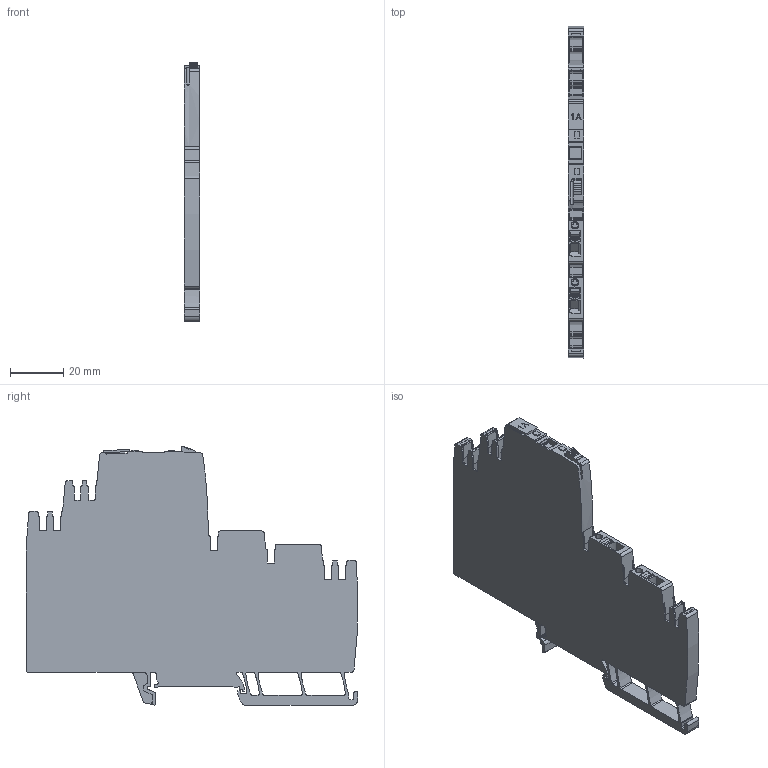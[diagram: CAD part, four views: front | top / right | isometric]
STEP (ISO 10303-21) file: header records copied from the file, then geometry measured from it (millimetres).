
FILE_DESCRIPTION(('CATIA V5R24 STEP','CAx-IF Rec.Pracs.--- Model Styling and Organization---1.2---2011-12-15'),'2;1');
FILE_NAME('\\SRVDE107\Germany\WMC\1_WMC_Input\Step_BU_PA\2491270000.stp','2017-09-05T06:37:04+00:00',('Weidmueller Interface'),('WI'),'CATIA Version 5-6 Release 2014 SP4','CATIA V5 STEP AP214','none');
FILE_SCHEMA(('AUTOMOTIVE_DESIGN { 1 0 10303 214 1 1 1 1 }'));
Length unit declared in the file: millimetre
Products named in the file (1): 2491270000
Bounding box: 6 x 125.07 x 97.53 mm (x, y, z)
Volume: 46747.3 mm3; surface area: 24194.7 mm2
Topology: 11 solids, 11 shells, 1097 faces, 3239 edges, 2191 vertices
Faces by surface type: plane 615, cylinder 457, extrusion 23, bspline 2
Entity records: 37484 total; most frequent: CARTESIAN_POINT 7880, ORIENTED_EDGE 6478, DIRECTION 4927, EDGE_CURVE 3239, VERTEX_POINT 2191, VECTOR 2182, LINE 2159, AXIS2_PLACEMENT_3D 1835
